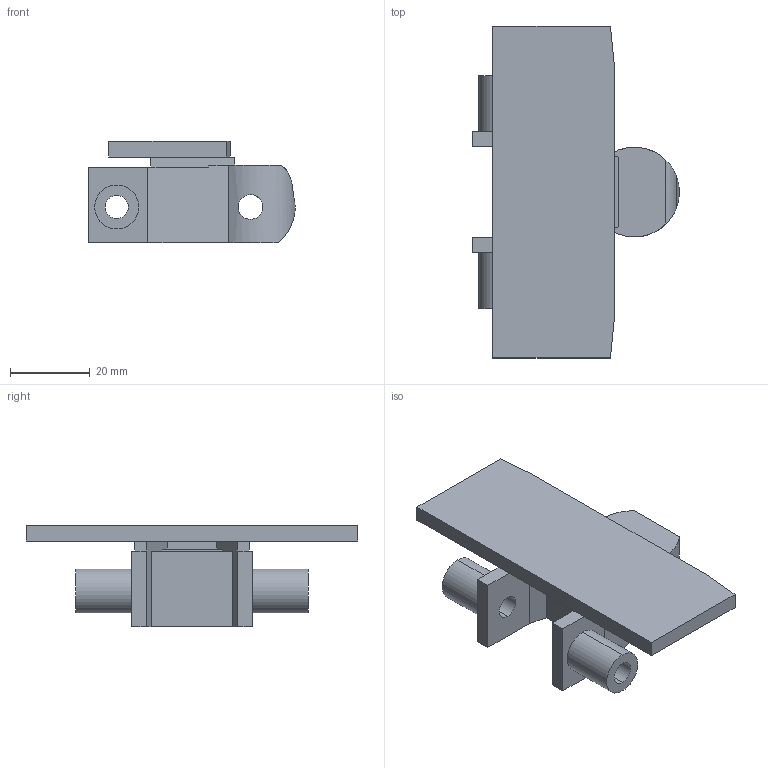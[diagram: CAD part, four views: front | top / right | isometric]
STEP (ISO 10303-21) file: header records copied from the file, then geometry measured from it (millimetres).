
FILE_DESCRIPTION (( 'STEP AP214' ), '1' );
FILE_NAME ('FMPC 5 R700.step', '2017-04-04T13:34:52', ( '' ), ( '' ), 'SwSTEP 2.0', 'SolidWorks 2015', '' );
FILE_SCHEMA (( 'AUTOMOTIVE_DESIGN' ));
Length unit declared in the file: millimetre
Products named in the file (1): FMPC 5 R700
Bounding box: 51.65 x 83 x 25.5 mm (x, y, z)
Volume: 27077.1 mm3; surface area: 12935 mm2
Topology: 1 solids, 1 shells, 54 faces, 147 edges, 97 vertices
Faces by surface type: plane 38, cylinder 16
Entity records: 1877 total; most frequent: CARTESIAN_POINT 463, ORIENTED_EDGE 294, DIRECTION 271, EDGE_CURVE 147, VECTOR 113, LINE 113, VERTEX_POINT 97, AXIS2_PLACEMENT_3D 79
